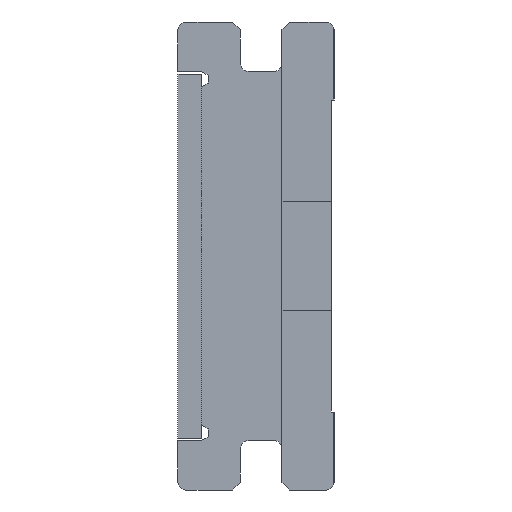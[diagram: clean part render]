
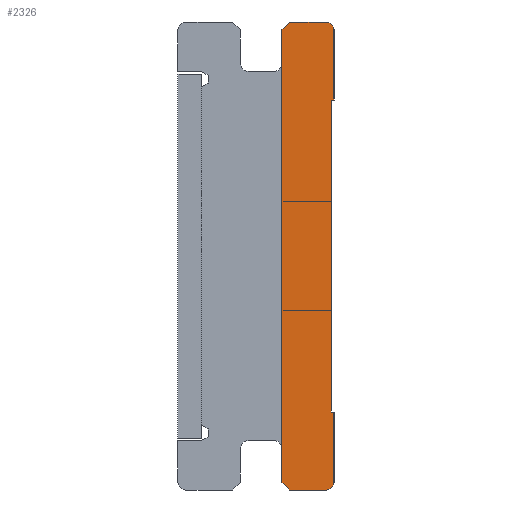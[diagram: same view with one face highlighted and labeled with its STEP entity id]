
A CAD part, left-side view. The second image highlights one B-rep face of the part: STEP entity #2326.
In plain terms, the highlighted planar face has unit normal (-1, 0, 0).
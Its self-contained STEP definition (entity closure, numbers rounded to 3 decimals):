
#6 = CARTESIAN_POINT ( 'NONE',  ( 0., 0., -15. ) ) ;
#28 = CARTESIAN_POINT ( 'NONE',  ( 0., 0.3, -18. ) ) ;
#46 = EDGE_CURVE ( 'NONE', #2010, #1866, #433, .T. ) ;
#70 = DIRECTION ( 'NONE',  ( 0., -1., 0. ) ) ;
#90 = CARTESIAN_POINT ( 'NONE',  ( 0., 0., -17.7 ) ) ;
#215 = CARTESIAN_POINT ( 'NONE',  ( 0., 1.7, -18. ) ) ;
#223 = CARTESIAN_POINT ( 'NONE',  ( 0., 0.3, 0. ) ) ;
#235 = DIRECTION ( 'NONE',  ( 0., 0., -1. ) ) ;
#243 = CARTESIAN_POINT ( 'NONE',  ( 0., 0.1, -3. ) ) ;
#266 = ORIENTED_EDGE ( 'NONE', *, *, #404, .F. ) ;
#292 = VERTEX_POINT ( 'NONE', #1739 ) ;
#320 = VERTEX_POINT ( 'NONE', #512 ) ;
#329 = EDGE_CURVE ( 'NONE', #1512, #320, #2034, .T. ) ;
#347 = EDGE_CURVE ( 'NONE', #793, #524, #1265, .T. ) ;
#388 = CARTESIAN_POINT ( 'NONE',  ( 0., 0., -15. ) ) ;
#400 = LINE ( 'NONE', #28, #1342 ) ;
#404 = EDGE_CURVE ( 'NONE', #292, #793, #400, .T. ) ;
#413 = LINE ( 'NONE', #223, #1796 ) ;
#428 = ORIENTED_EDGE ( 'NONE', *, *, #2262, .F. ) ;
#433 = CIRCLE ( 'NONE', #1109, 0.3 ) ;
#512 = CARTESIAN_POINT ( 'NONE',  ( 0., 0.1, -15. ) ) ;
#524 = VERTEX_POINT ( 'NONE', #1990 ) ;
#588 = ORIENTED_EDGE ( 'NONE', *, *, #770, .F. ) ;
#596 = VECTOR ( 'NONE', #235, 1000. ) ;
#637 = EDGE_CURVE ( 'NONE', #524, #2196, #1609, .T. ) ;
#655 = DIRECTION ( 'NONE',  ( 0., 0., 1. ) ) ;
#687 = DIRECTION ( 'NONE',  ( 0., 1., 0. ) ) ;
#700 = CARTESIAN_POINT ( 'NONE',  ( 0., 1.7, -18. ) ) ;
#708 = ORIENTED_EDGE ( 'NONE', *, *, #2329, .F. ) ;
#732 = VERTEX_POINT ( 'NONE', #1886 ) ;
#766 = VECTOR ( 'NONE', #1198, 1000. ) ;
#769 = DIRECTION ( 'NONE',  ( 0., 0., -1. ) ) ;
#770 = EDGE_CURVE ( 'NONE', #1354, #1746, #1143, .T. ) ;
#793 = VERTEX_POINT ( 'NONE', #215 ) ;
#876 = CARTESIAN_POINT ( 'NONE',  ( 0., 0.1, -3. ) ) ;
#932 = DIRECTION ( 'NONE',  ( 0., 1., 0. ) ) ;
#943 = PLANE ( 'NONE',  #2367 ) ;
#950 = CARTESIAN_POINT ( 'NONE',  ( 0., 2., -0.3 ) ) ;
#957 = ORIENTED_EDGE ( 'NONE', *, *, #1263, .F. ) ;
#977 = LINE ( 'NONE', #1579, #766 ) ;
#1004 = CARTESIAN_POINT ( 'NONE',  ( 0., 0., -3. ) ) ;
#1018 = ORIENTED_EDGE ( 'NONE', *, *, #347, .F. ) ;
#1084 = EDGE_CURVE ( 'NONE', #1746, #292, #1347, .T. ) ;
#1109 = AXIS2_PLACEMENT_3D ( 'NONE', #2421, #2041, #1460 ) ;
#1143 = LINE ( 'NONE', #6, #1808 ) ;
#1161 = ORIENTED_EDGE ( 'NONE', *, *, #1084, .F. ) ;
#1198 = DIRECTION ( 'NONE',  ( 0., -0.707, 0.707 ) ) ;
#1220 = EDGE_LOOP ( 'NONE', ( #428, #1723, #1018, #266, #1161, #588, #708, #2076, #1787, #1353, #1300, #957 ) ) ;
#1224 = DIRECTION ( 'NONE',  ( 1., 0., 0. ) ) ;
#1229 = CARTESIAN_POINT ( 'NONE',  ( 0., 0.3, 0. ) ) ;
#1263 = EDGE_CURVE ( 'NONE', #732, #2010, #413, .T. ) ;
#1265 = LINE ( 'NONE', #700, #1338 ) ;
#1300 = ORIENTED_EDGE ( 'NONE', *, *, #46, .F. ) ;
#1338 = VECTOR ( 'NONE', #1864, 1000. ) ;
#1342 = VECTOR ( 'NONE', #2091, 1000. ) ;
#1347 = CIRCLE ( 'NONE', #1989, 0.3 ) ;
#1353 = ORIENTED_EDGE ( 'NONE', *, *, #2415, .F. ) ;
#1354 = VERTEX_POINT ( 'NONE', #2304 ) ;
#1460 = DIRECTION ( 'NONE',  ( 0., 0., 1. ) ) ;
#1497 = DIRECTION ( 'NONE',  ( 1., 0., 0. ) ) ;
#1500 = DIRECTION ( 'NONE',  ( 0., 0., -1. ) ) ;
#1510 = DIRECTION ( 'NONE',  ( 0., -1., 0. ) ) ;
#1512 = VERTEX_POINT ( 'NONE', #243 ) ;
#1527 = LINE ( 'NONE', #388, #2009 ) ;
#1579 = CARTESIAN_POINT ( 'NONE',  ( 0., 1.7, 0. ) ) ;
#1609 = LINE ( 'NONE', #2365, #2284 ) ;
#1653 = CARTESIAN_POINT ( 'NONE',  ( 0., 0.3, -17.7 ) ) ;
#1669 = VECTOR ( 'NONE', #1500, 1000. ) ;
#1721 = CARTESIAN_POINT ( 'NONE',  ( 0., 5.1, -15.8 ) ) ;
#1723 = ORIENTED_EDGE ( 'NONE', *, *, #637, .F. ) ;
#1739 = CARTESIAN_POINT ( 'NONE',  ( 0., 0.3, -18. ) ) ;
#1746 = VERTEX_POINT ( 'NONE', #90 ) ;
#1787 = ORIENTED_EDGE ( 'NONE', *, *, #2459, .F. ) ;
#1796 = VECTOR ( 'NONE', #70, 1000. ) ;
#1808 = VECTOR ( 'NONE', #769, 1000. ) ;
#1864 = DIRECTION ( 'NONE',  ( 0., 0.707, 0.707 ) ) ;
#1866 = VERTEX_POINT ( 'NONE', #2020 ) ;
#1886 = CARTESIAN_POINT ( 'NONE',  ( 0., 1.7, 0. ) ) ;
#1984 = DIRECTION ( 'NONE',  ( 0., 0., -1. ) ) ;
#1989 = AXIS2_PLACEMENT_3D ( 'NONE', #1653, #1224, #1984 ) ;
#1990 = CARTESIAN_POINT ( 'NONE',  ( 0., 2., -17.7 ) ) ;
#2009 = VECTOR ( 'NONE', #1510, 1000. ) ;
#2010 = VERTEX_POINT ( 'NONE', #1229 ) ;
#2020 = CARTESIAN_POINT ( 'NONE',  ( 0., 0., -0.3 ) ) ;
#2034 = LINE ( 'NONE', #876, #1669 ) ;
#2041 = DIRECTION ( 'NONE',  ( 1., 0., 0. ) ) ;
#2076 = ORIENTED_EDGE ( 'NONE', *, *, #329, .F. ) ;
#2091 = DIRECTION ( 'NONE',  ( 0., 1., 0. ) ) ;
#2132 = LINE ( 'NONE', #2170, #596 ) ;
#2170 = CARTESIAN_POINT ( 'NONE',  ( 0., 0., -0.3 ) ) ;
#2190 = VECTOR ( 'NONE', #687, 1000. ) ;
#2196 = VERTEX_POINT ( 'NONE', #950 ) ;
#2262 = EDGE_CURVE ( 'NONE', #2196, #732, #977, .T. ) ;
#2265 = FACE_OUTER_BOUND ( 'NONE', #1220, .T. ) ;
#2284 = VECTOR ( 'NONE', #655, 1000. ) ;
#2304 = CARTESIAN_POINT ( 'NONE',  ( 0., 0., -15. ) ) ;
#2326 = ADVANCED_FACE ( 'NONE', ( #2265 ), #943, .F. ) ;
#2329 = EDGE_CURVE ( 'NONE', #320, #1354, #1527, .T. ) ;
#2365 = CARTESIAN_POINT ( 'NONE',  ( 0., 2., -17.7 ) ) ;
#2367 = AXIS2_PLACEMENT_3D ( 'NONE', #1721, #1497, #932 ) ;
#2395 = LINE ( 'NONE', #2422, #2190 ) ;
#2415 = EDGE_CURVE ( 'NONE', #1866, #2423, #2132, .T. ) ;
#2421 = CARTESIAN_POINT ( 'NONE',  ( 0., 0.3, -0.3 ) ) ;
#2422 = CARTESIAN_POINT ( 'NONE',  ( 0., 0., -3. ) ) ;
#2423 = VERTEX_POINT ( 'NONE', #1004 ) ;
#2459 = EDGE_CURVE ( 'NONE', #2423, #1512, #2395, .T. ) ;
